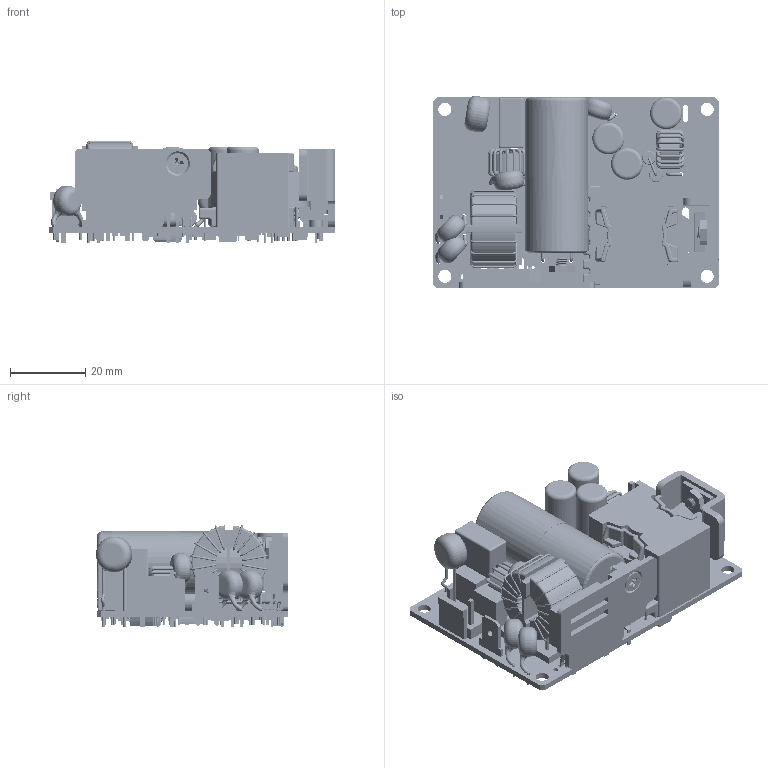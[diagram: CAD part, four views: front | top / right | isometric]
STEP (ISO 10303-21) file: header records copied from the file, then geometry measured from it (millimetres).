
FILE_DESCRIPTION (( 'STEP AP214' ), '1' );
FILE_NAME ('CUS60M_PILOT_NEW.STEP', '2017-09-20T03:13:49', ( '' ), ( '' ), 'SwSTEP 2.0', 'SolidWorks 2014', '' );
FILE_SCHEMA (( 'AUTOMOTIVE_DESIGN' ));
Length unit declared in the file: millimetre
Products named in the file (157): FLAT HEAD SCREW M3X6 FE NI G; TH-9.5X6P6H12; S-FLAT; 4LSOP; MSOP7-W4_0; R1608; C1608; PIN; SC-76; BEAD; SC-79; L-NSL675; TO-220AB-T2_5_CUS60_______; TO-220AB; CN-B4P-VH; I-FLAT; C-ELE-8_0P3_5H15; CA849-32-01A; R-CT-6EP-0R9; CA849-32-02; C-Y1-8X5P10H11 ; T-PQ2603-8-H20_8; R3216; HEX_NUT; C3216; R-CT-6EP-0R9_______; C-ELE-16_0P7_5H40L_CUS60M; C-Y1-8X5P10H11 _cus60m_152M; FLAT HEAD SCREW M3X8 FE NI G; C-ELE-5_0P2H11L; C-Y1-7X5P10H10L_152M; Z-2_7P3_5H7_5; R3225; C-FIL-13_5X6_5P10H17; TO-220AB-T2_5_CUS60; SC-59; L-CV620280SKC-H22_5; L-XCA84901-H11_5; ca84931010203; L-BL02RN2R1M2B-H7_5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
Assembly tree (112 placements, depth 3):
  FLAT HEAD SCREW M3X6 FE NI G
  TH-9.5X6P6H12
  S-FLAT
  4LSOP
  R1608
Bounding box: 76.2 x 51.21 x 27.06 mm (x, y, z)
Volume: 33584.8 mm3; surface area: 39990.9 mm2
Topology: 238 solids, 257 shells, 4919 faces, 12594 edges, 7953 vertices
Faces by surface type: plane 2357, cylinder 1486, torus 695, bspline 235, cone 114, sphere 32
Entity records: 144678 total; most frequent: CARTESIAN_POINT 30239, DIRECTION 18468, ORIENTED_EDGE 17590, EDGE_CURVE 8875, AXIS2_PLACEMENT_3D 7157, VERTEX_POINT 5620, VECTOR 4154, LINE 4154
